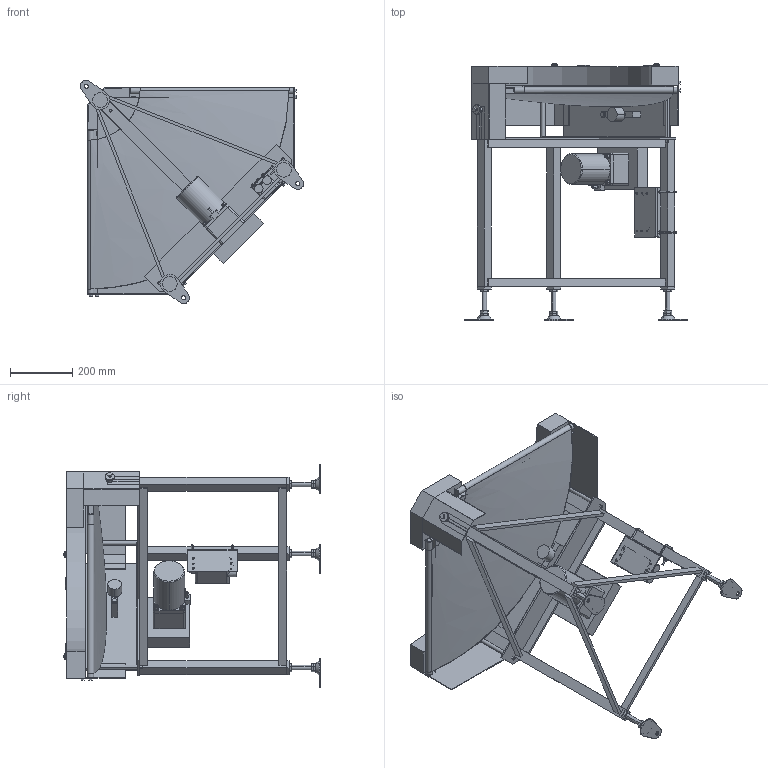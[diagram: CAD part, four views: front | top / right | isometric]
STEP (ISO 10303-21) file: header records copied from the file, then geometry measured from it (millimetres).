
FILE_DESCRIPTION( (''), '2;1');
FILE_NAME ('FFBC3-UD-309-400-90°-L-K-60.stp','2025-02-17T15:16:19',(''),(''),'spGate 20.6.2 (****-****-****-****)','','');
FILE_SCHEMA (('AUTOMOTIVE_DESIGN'));
Length unit declared in the file: millimetre
Products named in the file (66): NewModel; TEMP_X_T-prt0; TEMP_X_T-prt1; TEMP_X_T-prt2; TEMP_X_T-prt3; TEMP_X_T-prt4; TEMP_X_T-prt5; TEMP_X_T-prt6; TEMP_X_T-prt7; TEMP_X_T-prt8; TEMP_X_T-prt9; TEMP_X_T-prt10; TEMP_X_T-prt11; TEMP_X_T-prt12; TEMP_X_T-prt13; TEMP_X_T-prt14; TEMP_X_T-prt15; TEMP_X_T-prt16; TEMP_X_T-prt17; TEMP_X_T-prt18; TEMP_X_T-prt19; TEMP_X_T-prt20; TEMP_X_T-prt21; TEMP_X_T-prt22; TEMP_X_T-prt23; TEMP_X_T-prt24; TEMP_X_T-prt25; TEMP_X_T-prt26; TEMP_X_T-prt27; TEMP_X_T-prt28; TEMP_X_T-prt29; TEMP_X_T-prt30; TEMP_X_T-prt31; TEMP_X_T-prt32; TEMP_X_T-prt33; TEMP_X_T-prt34; TEMP_X_T-prt35; TEMP_X_T-prt36; TEMP_X_T-prt37; TEMP_X_T-prt38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
Assembly tree (65 placements, depth 2):
  NewModel
    TEMP_X_T-prt0
    TEMP_X_T-prt1
    TEMP_X_T-prt2
    TEMP_X_T-prt3
    TEMP_X_T-prt4
    TEMP_X_T-prt5
    TEMP_X_T-prt6
    TEMP_X_T-prt7
    TEMP_X_T-prt8
    TEMP_X_T-prt9
    TEMP_X_T-prt10
    TEMP_X_T-prt11
    TEMP_X_T-prt12
    TEMP_X_T-prt13
    TEMP_X_T-prt14
    TEMP_X_T-prt15
    TEMP_X_T-prt16
    TEMP_X_T-prt17
    TEMP_X_T-prt18
    TEMP_X_T-prt19
    TEMP_X_T-prt20
    TEMP_X_T-prt21
    TEMP_X_T-prt22
    TEMP_X_T-prt23
    TEMP_X_T-prt24
    TEMP_X_T-prt25
    TEMP_X_T-prt26
    TEMP_X_T-prt27
    TEMP_X_T-prt28
    TEMP_X_T-prt29
    TEMP_X_T-prt30
    TEMP_X_T-prt31
    TEMP_X_T-prt32
    TEMP_X_T-prt33
    TEMP_X_T-prt34
    TEMP_X_T-prt35
    TEMP_X_T-prt36
    TEMP_X_T-prt37
    TEMP_X_T-prt38
    TEMP_X_T-prt39
    TEMP_X_T-prt40
    TEMP_X_T-prt41
    TEMP_X_T-prt42
    TEMP_X_T-prt43
    TEMP_X_T-prt44
    TEMP_X_T-prt45
    TEMP_X_T-prt46
    TEMP_X_T-prt47
    TEMP_X_T-prt48
    TEMP_X_T-prt49
    TEMP_X_T-prt50
    TEMP_X_T-prt51
    TEMP_X_T-prt52
    TEMP_X_T-prt53
    TEMP_X_T-prt54
    TEMP_X_T-prt55
    TEMP_X_T-prt56
    TEMP_X_T-prt57
    TEMP_X_T-prt58
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Bounding box: 719.17 x 827.92 x 719.17 mm (x, y, z)
Volume: 17979199.3 mm3; surface area: 3935426.7 mm2
Topology: 65 solids, 65 shells, 1151 faces, 2634 edges, 1690 vertices
Faces by surface type: plane 700, cylinder 319, bspline 128, sphere 4
Entity records: 59337 total; most frequent: CARTESIAN_POINT 10289, ORIENTED_EDGE 5236, DIRECTION 5233, COLOUR_RGB 3834, PRESENTATION_STYLE_ASSIGNMENT 3834, STYLED_ITEM 3834, EDGE_CURVE 2618, DRAUGHTING_PRE_DEFINED_CURVE_FONT 2618
